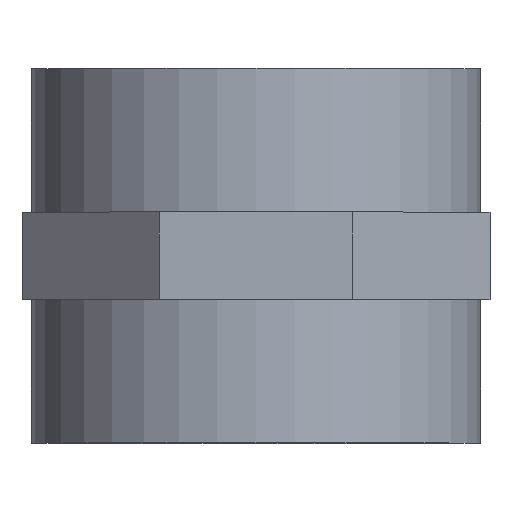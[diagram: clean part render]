
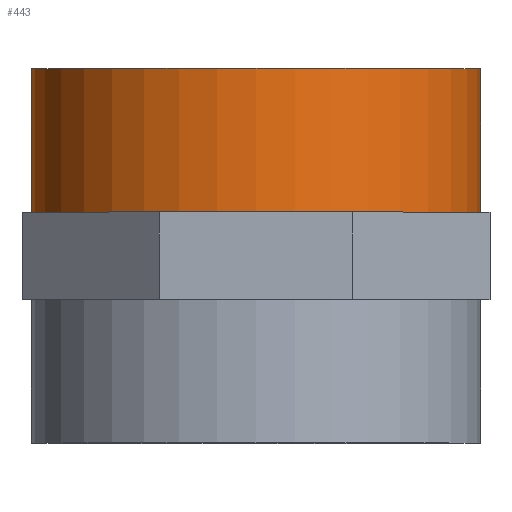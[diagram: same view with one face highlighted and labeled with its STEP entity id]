
A CAD part, top view. The second image highlights one B-rep face of the part: STEP entity #443.
In plain terms, the highlighted cylindrical face has radius 36 mm (diameter 72 mm), a full revolution.
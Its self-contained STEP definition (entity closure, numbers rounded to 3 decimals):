
#74=CYLINDRICAL_SURFACE('',#466,36.);
#81=FACE_BOUND('',#147,.T.);
#88=CIRCLE('',#457,36.);
#89=CIRCLE('',#467,36.);
#114=FACE_OUTER_BOUND('',#146,.T.);
#146=EDGE_LOOP('',(#390));
#147=EDGE_LOOP('',(#391));
#223=VERTEX_POINT('',#9576);
#224=VERTEX_POINT('',#9595);
#275=EDGE_CURVE('',#223,#223,#88,.T.);
#284=EDGE_CURVE('',#224,#224,#89,.T.);
#390=ORIENTED_EDGE('',*,*,#284,.F.);
#391=ORIENTED_EDGE('',*,*,#275,.T.);
#443=ADVANCED_FACE('',(#114,#81),#74,.T.);
#457=AXIS2_PLACEMENT_3D('',#9577,#506,#507);
#466=AXIS2_PLACEMENT_3D('',#9594,#532,#533);
#467=AXIS2_PLACEMENT_3D('',#9596,#534,#535);
#506=DIRECTION('center_axis',(0.,1.,0.));
#507=DIRECTION('ref_axis',(1.,0.,0.));
#532=DIRECTION('center_axis',(0.,1.,0.));
#533=DIRECTION('ref_axis',(1.,0.,0.));
#534=DIRECTION('center_axis',(0.,1.,0.));
#535=DIRECTION('ref_axis',(1.,0.,0.));
#9576=CARTESIAN_POINT('',(-36.,7.,0.));
#9577=CARTESIAN_POINT('Origin',(0.,7.,0.));
#9594=CARTESIAN_POINT('Origin',(0.,0.,0.));
#9595=CARTESIAN_POINT('',(-36.,30.,0.));
#9596=CARTESIAN_POINT('Origin',(0.,30.,0.));
